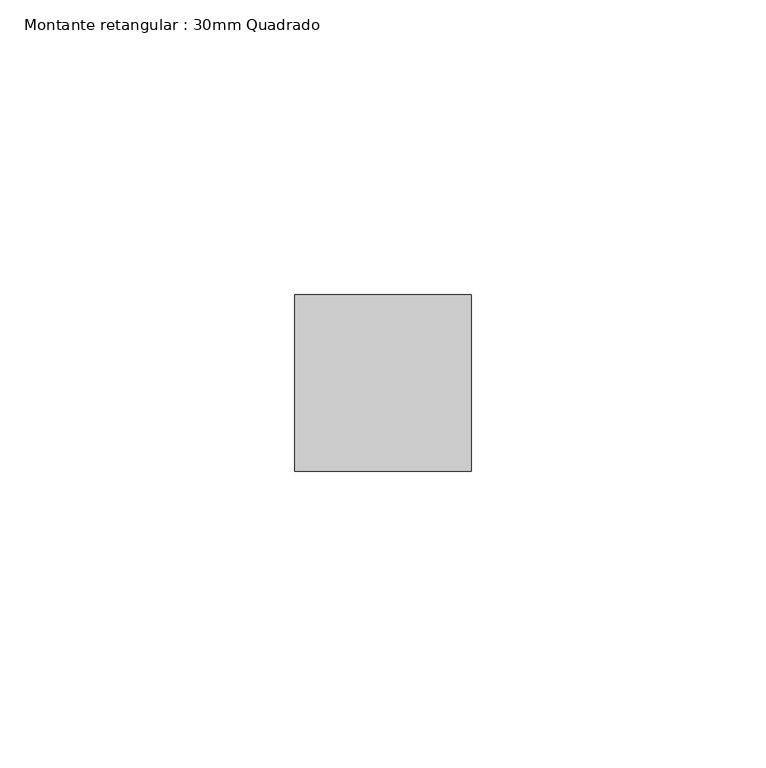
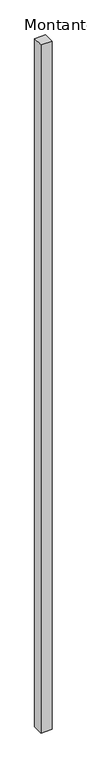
"""IFC4 building model written with IfcOpenShell, lengths in millimetres: member geometry, Montante retangular : 30mm Quadrado."""

from ifc_helpers import new_model, si_unit, frame, origin, place, context, project, spatial, polyline, outline, extrude, source, transform, mapped, element, save


def montante_retangular_30mm_quadrado_a17e053e(model_context):
    return source(origin(), model_context, "Body", "SweptSolid", [
        extrude(outline(polyline([(15.0, 15.0), (15.0, -15.0), (-15.0, -15.0), (-15.0, 15.0), (15.0, 15.0)])), frame((0.0, 0.0, -1990.0), z_axis=(0.0, 0.0, 1.0), x_axis=(1.0, 0.0, 0.0)), (0.0, 0.0, 1.0), 1990.0),
    ])


if __name__ == "__main__":
    model = new_model("IFC4")
    model_context = context("Model", 3, world=origin())
    ifc_project = project(units=[si_unit("LENGTHUNIT", "METRE", prefix="MILLI")], contexts=[model_context])
    site = spatial("IfcSite", under=ifc_project)
    building = spatial("IfcBuilding", under=site)
    placement = place(None, origin())
    montante_retangular_30mm_quadrado_shape = montante_retangular_30mm_quadrado_a17e053e(model_context)
    element("IfcMember", 1, ObjectType="Montante retangular : 30mm Quadrado", at=placement, inside=building, context=model_context, shape_type="MappedRepresentation", body=[
        mapped(montante_retangular_30mm_quadrado_shape, transform((0.0, 0.0, 0.0), x_axis=(1.0, 0.0, 0.0), y_axis=(0.0, 1.0, 0.0), z_axis=(0.0, 0.0, 1.0))),
    ])
    save(model, "model.ifc")
